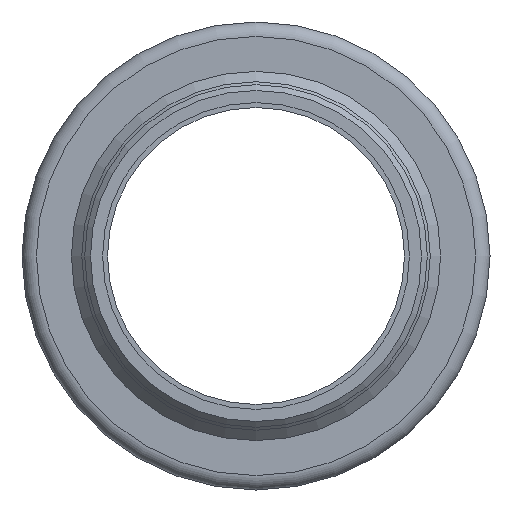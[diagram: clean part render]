
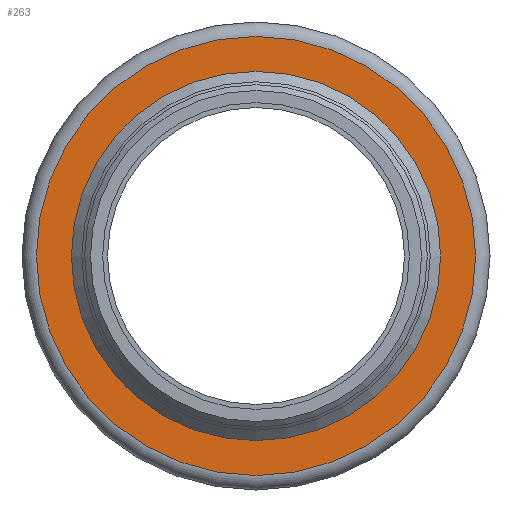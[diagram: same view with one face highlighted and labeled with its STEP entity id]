
A CAD part, front view. The second image highlights one B-rep face of the part: STEP entity #263.
In plain terms, the highlighted planar face has unit normal (0, -1, 0).
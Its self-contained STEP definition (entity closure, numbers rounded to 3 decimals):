
#85=ORIENTED_EDGE('',*,*,#106,.F.);
#86=ORIENTED_EDGE('',*,*,#112,.T.);
#106=EDGE_CURVE('',#127,#127,#148,.T.);
#112=EDGE_CURVE('',#133,#133,#154,.T.);
#127=VERTEX_POINT('',#478);
#133=VERTEX_POINT('',#495);
#148=CIRCLE('',#326,31.95);
#154=CIRCLE('',#337,38.);
#190=EDGE_LOOP('',(#85));
#191=EDGE_LOOP('',(#86));
#232=FACE_BOUND('',#190,.T.);
#233=FACE_BOUND('',#191,.T.);
#245=PLANE('',#336);
#263=ADVANCED_FACE('',(#232,#233),#245,.T.);
#326=AXIS2_PLACEMENT_3D('',#477,#401,#402);
#336=AXIS2_PLACEMENT_3D('',#493,#421,#422);
#337=AXIS2_PLACEMENT_3D('',#494,#423,#424);
#401=DIRECTION('',(0.,-1.,0.));
#402=DIRECTION('',(0.,0.,-1.));
#421=DIRECTION('',(0.,-1.,0.));
#422=DIRECTION('',(0.,0.,-1.));
#423=DIRECTION('',(0.,-1.,0.));
#424=DIRECTION('',(0.,0.,-1.));
#477=CARTESIAN_POINT('',(0.,0.,0.));
#478=CARTESIAN_POINT('',(0.,0.,-31.95));
#493=CARTESIAN_POINT('',(0.,0.,30.15));
#494=CARTESIAN_POINT('',(0.,0.,0.));
#495=CARTESIAN_POINT('',(0.,0.,-38.));
